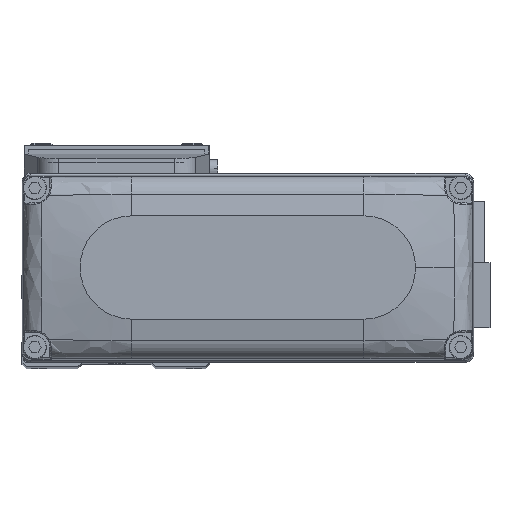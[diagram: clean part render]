
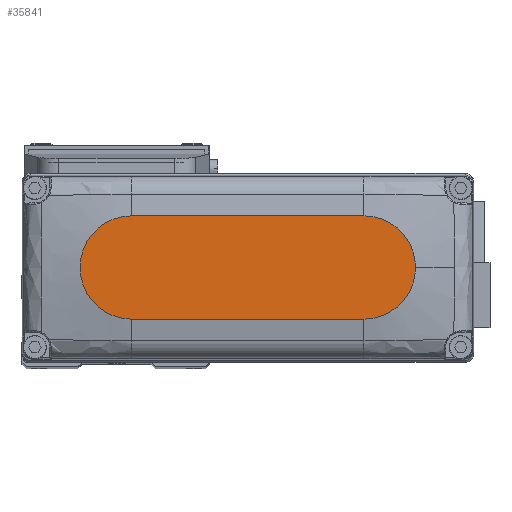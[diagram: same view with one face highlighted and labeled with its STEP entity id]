
A CAD part, top view. The second image highlights one B-rep face of the part: STEP entity #35841.
In plain terms, the highlighted planar face has unit normal (0, 0, 1).
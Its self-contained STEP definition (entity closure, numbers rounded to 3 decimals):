
#82 = CIRCLE ( 'NONE', #22251, 12. ) ;
#1401 = EDGE_CURVE ( 'NONE', #36458, #2348, #82, .T. ) ;
#2066 = CARTESIAN_POINT ( 'NONE',  ( 0., 0., 25. ) ) ;
#2348 = VERTEX_POINT ( 'NONE', #29162 ) ;
#4142 = LINE ( 'NONE', #16245, #27761 ) ;
#7042 = LINE ( 'NONE', #19139, #16094 ) ;
#7799 = DIRECTION ( 'NONE',  ( 0., 0., 1. ) ) ;
#8044 = CIRCLE ( 'NONE', #30251, 12. ) ;
#10279 = ORIENTED_EDGE ( 'NONE', *, *, #31060, .T. ) ;
#10291 = ORIENTED_EDGE ( 'NONE', *, *, #36609, .T. ) ;
#12296 = CARTESIAN_POINT ( 'NONE',  ( 27., -12., 25. ) ) ;
#13168 = CARTESIAN_POINT ( 'NONE',  ( 27., 0., 25. ) ) ;
#13865 = AXIS2_PLACEMENT_3D ( 'NONE', #35028, #7799, #19903 ) ;
#14161 = DIRECTION ( 'NONE',  ( 0., 0., 1. ) ) ;
#14241 = CARTESIAN_POINT ( 'NONE',  ( -27., 0., 25. ) ) ;
#16094 = VECTOR ( 'NONE', #31277, 1000. ) ;
#16128 = CARTESIAN_POINT ( 'NONE',  ( -27., 12., 25. ) ) ;
#16245 = CARTESIAN_POINT ( 'NONE',  ( -27., -12., 25. ) ) ;
#17145 = FACE_OUTER_BOUND ( 'NONE', #22270, .T. ) ;
#19139 = CARTESIAN_POINT ( 'NONE',  ( -27., 12., 25. ) ) ;
#19903 = DIRECTION ( 'NONE',  ( 1., 0., 0. ) ) ;
#20721 = VERTEX_POINT ( 'NONE', #25815 ) ;
#22182 = VERTEX_POINT ( 'NONE', #24041 ) ;
#22251 = AXIS2_PLACEMENT_3D ( 'NONE', #13168, #25283, #37416 ) ;
#22270 = EDGE_LOOP ( 'NONE', ( #10279, #27400, #10291, #23604, #37748 ) ) ;
#23385 = AXIS2_PLACEMENT_3D ( 'NONE', #2066, #14161, #26277 ) ;
#23604 = ORIENTED_EDGE ( 'NONE', *, *, #1401, .T. ) ;
#24041 = CARTESIAN_POINT ( 'NONE',  ( -27., -12., 25. ) ) ;
#25283 = DIRECTION ( 'NONE',  ( 0., 0., 1. ) ) ;
#25815 = CARTESIAN_POINT ( 'NONE',  ( 27., 12., 25. ) ) ;
#26277 = DIRECTION ( 'NONE',  ( 1., 0., 0. ) ) ;
#26369 = DIRECTION ( 'NONE',  ( 0., 0., 1. ) ) ;
#27400 = ORIENTED_EDGE ( 'NONE', *, *, #33683, .T. ) ;
#27761 = VECTOR ( 'NONE', #28372, 1000. ) ;
#28372 = DIRECTION ( 'NONE',  ( 1., 0., 0. ) ) ;
#29162 = CARTESIAN_POINT ( 'NONE',  ( 39., 0., 25. ) ) ;
#29263 = PLANE ( 'NONE',  #23385 ) ;
#30251 = AXIS2_PLACEMENT_3D ( 'NONE', #14241, #26369, #38497 ) ;
#31002 = CIRCLE ( 'NONE', #13865, 12. ) ;
#31060 = EDGE_CURVE ( 'NONE', #20721, #37457, #7042, .T. ) ;
#31277 = DIRECTION ( 'NONE',  ( -1., 0., 0. ) ) ;
#33683 = EDGE_CURVE ( 'NONE', #37457, #22182, #8044, .T. ) ;
#35028 = CARTESIAN_POINT ( 'NONE',  ( 27., 0., 25. ) ) ;
#35841 = ADVANCED_FACE ( 'NONE', ( #17145 ), #29263, .T. ) ;
#36458 = VERTEX_POINT ( 'NONE', #12296 ) ;
#36609 = EDGE_CURVE ( 'NONE', #22182, #36458, #4142, .T. ) ;
#37416 = DIRECTION ( 'NONE',  ( 1., 0., 0. ) ) ;
#37457 = VERTEX_POINT ( 'NONE', #16128 ) ;
#37552 = EDGE_CURVE ( 'NONE', #2348, #20721, #31002, .T. ) ;
#37748 = ORIENTED_EDGE ( 'NONE', *, *, #37552, .T. ) ;
#38497 = DIRECTION ( 'NONE',  ( 1., 0., 0. ) ) ;
